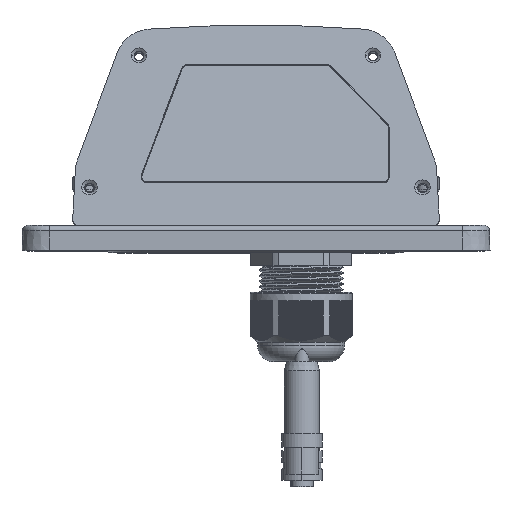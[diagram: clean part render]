
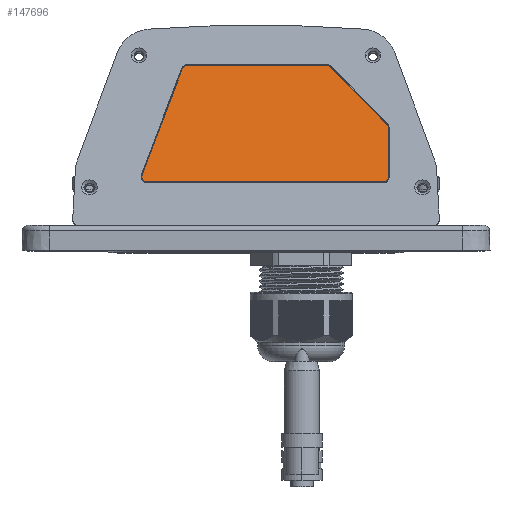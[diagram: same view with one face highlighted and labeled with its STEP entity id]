
A CAD part, top view. The second image highlights one B-rep face of the part: STEP entity #147696.
In plain terms, the highlighted planar face has unit normal (0, 0.208, 0.978).
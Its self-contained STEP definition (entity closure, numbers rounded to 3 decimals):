
#141900=DIRECTION('',(1.,0.,0.));
#141901=VECTOR('',#141900,84.62);
#141902=CARTESIAN_POINT('',(-39.02,-10.369,
102.962));
#141903=LINE('',#141902,#141901);
#141920=DIRECTION('',(-1.,0.,0.));
#141921=VECTOR('',#141920,50.037);
#141922=CARTESIAN_POINT('',(25.426,31.482,
94.067));
#141923=LINE('',#141922,#141921);
#141944=DIRECTION('',(0.,0.978,
-0.208));
#141945=VECTOR('',#141944,17.795);
#141946=CARTESIAN_POINT('',(47.561,-8.451,
102.555));
#141947=LINE('',#141946,#141945);
#141952=CARTESIAN_POINT('',(45.6,-8.451,
102.555));
#141953=DIRECTION('',(0.,-0.208,-0.978));
#141954=DIRECTION('',(1.,0.,0.));
#141955=AXIS2_PLACEMENT_3D('',#141952,#141953,#141954);
#141957=CARTESIAN_POINT('',(-39.02,-8.451,
102.555));
#141958=DIRECTION('',(0.,-0.208,-0.978));
#141959=DIRECTION('',(0.,-0.978,0.208));
#141960=AXIS2_PLACEMENT_3D('',#141957,#141958,#141959);
#141962=CARTESIAN_POINT('',(-39.02,-8.451,
102.555));
#141963=DIRECTION('',(0.,-0.208,-0.978));
#141964=DIRECTION('',(-1.,0.,0.));
#141965=AXIS2_PLACEMENT_3D('',#141962,#141963,#141964);
#141967=DIRECTION('',(0.348,0.917,-0.195));
#141968=VECTOR('',#141967,41.45);
#141969=CARTESIAN_POINT('',(-40.858,-7.785,
102.413));
#141970=LINE('',#141969,#141968);
#141971=CARTESIAN_POINT('',(-24.612,29.565,
94.474));
#141972=DIRECTION('',(0.,-0.208,-0.978));
#141973=DIRECTION('',(-0.938,0.34,-0.072));
#141974=AXIS2_PLACEMENT_3D('',#141971,#141972,#141973);
#141976=CARTESIAN_POINT('',(25.426,29.565,
94.474));
#141977=DIRECTION('',(0.,-0.208,-0.978));
#141978=DIRECTION('',(0.,0.978,-0.208));
#141979=AXIS2_PLACEMENT_3D('',#141976,#141977,#141978);
#141981=DIRECTION('',(0.692,-0.707,0.15));
#141982=VECTOR('',#141981,29.171);
#141983=CARTESIAN_POINT('',(26.842,30.891,
94.192));
#141984=LINE('',#141983,#141982);
#141985=CARTESIAN_POINT('',(45.6,8.955,
98.855));
#141986=DIRECTION('',(0.,-0.208,-0.978));
#141987=DIRECTION('',(0.722,0.676,-0.144));
#141988=AXIS2_PLACEMENT_3D('',#141985,#141986,#141987);
#143986=CARTESIAN_POINT('',(47.561,-8.451,
102.555));
#143987=CARTESIAN_POINT('',(45.6,-10.369,102.962));
#143988=VERTEX_POINT('',#143986);
#143989=VERTEX_POINT('',#143987);
#143990=CARTESIAN_POINT('',(-39.02,-10.369,
102.962));
#143991=VERTEX_POINT('',#143990);
#143992=CARTESIAN_POINT('',(-40.98,-8.451,
102.555));
#143993=VERTEX_POINT('',#143992);
#143994=CARTESIAN_POINT('',(-40.858,-7.785,
102.413));
#143995=VERTEX_POINT('',#143994);
#143996=CARTESIAN_POINT('',(-26.45,30.231,
94.333));
#143997=VERTEX_POINT('',#143996);
#143998=CARTESIAN_POINT('',(-24.612,31.482,
94.067));
#143999=VERTEX_POINT('',#143998);
#144000=CARTESIAN_POINT('',(25.426,31.482,
94.067));
#144001=VERTEX_POINT('',#144000);
#144002=CARTESIAN_POINT('',(26.842,30.891,
94.192));
#144003=VERTEX_POINT('',#144002);
#144004=CARTESIAN_POINT('',(47.016,10.281,98.573));
#144005=VERTEX_POINT('',#144004);
#144006=CARTESIAN_POINT('',(47.561,8.955,
98.855));
#144007=VERTEX_POINT('',#144006);
#147678=CARTESIAN_POINT('',(3.29,10.557,
98.515));
#147679=DIRECTION('',(0.,0.208,0.978));
#147680=DIRECTION('',(-1.,0.,0.));
#147681=AXIS2_PLACEMENT_3D('',#147678,#147679,#147680);
#147682=PLANE('',#147681);
#147683=ORIENTED_EDGE('',*,*,#147544,.T.);
#147684=ORIENTED_EDGE('',*,*,#147559,.F.);
#147685=ORIENTED_EDGE('',*,*,#147575,.T.);
#147686=ORIENTED_EDGE('',*,*,#147573,.T.);
#147687=ORIENTED_EDGE('',*,*,#147589,.T.);
#147688=ORIENTED_EDGE('',*,*,#147603,.T.);
#147689=ORIENTED_EDGE('',*,*,#147617,.F.);
#147690=ORIENTED_EDGE('',*,*,#147631,.T.);
#147691=ORIENTED_EDGE('',*,*,#147645,.T.);
#147692=ORIENTED_EDGE('',*,*,#147659,.T.);
#147693=ORIENTED_EDGE('',*,*,#147672,.F.);
#147694=EDGE_LOOP('',(#147683,#147684,#147685,#147686,#147687,#147688,#147689,
#147690,#147691,#147692,#147693));
#147695=FACE_OUTER_BOUND('',#147694,.F.);
#141956=CIRCLE('',#141955,1.96);
#141961=CIRCLE('',#141960,1.96);
#141966=CIRCLE('',#141965,1.96);
#141975=CIRCLE('',#141974,1.96);
#141980=CIRCLE('',#141979,1.96);
#141989=CIRCLE('',#141988,1.96);
#147544=EDGE_CURVE('',#143988,#143989,#141956,.T.);
#147559=EDGE_CURVE('',#143991,#143989,#141903,.T.);
#147573=EDGE_CURVE('',#143993,#143995,#141966,.T.);
#147575=EDGE_CURVE('',#143991,#143993,#141961,.T.);
#147589=EDGE_CURVE('',#143995,#143997,#141970,.T.);
#147603=EDGE_CURVE('',#143997,#143999,#141975,.T.);
#147617=EDGE_CURVE('',#144001,#143999,#141923,.T.);
#147631=EDGE_CURVE('',#144001,#144003,#141980,.T.);
#147645=EDGE_CURVE('',#144003,#144005,#141984,.T.);
#147659=EDGE_CURVE('',#144005,#144007,#141989,.T.);
#147672=EDGE_CURVE('',#143988,#144007,#141947,.T.);
#147696=ADVANCED_FACE('',(#147695),#147682,.T.);
